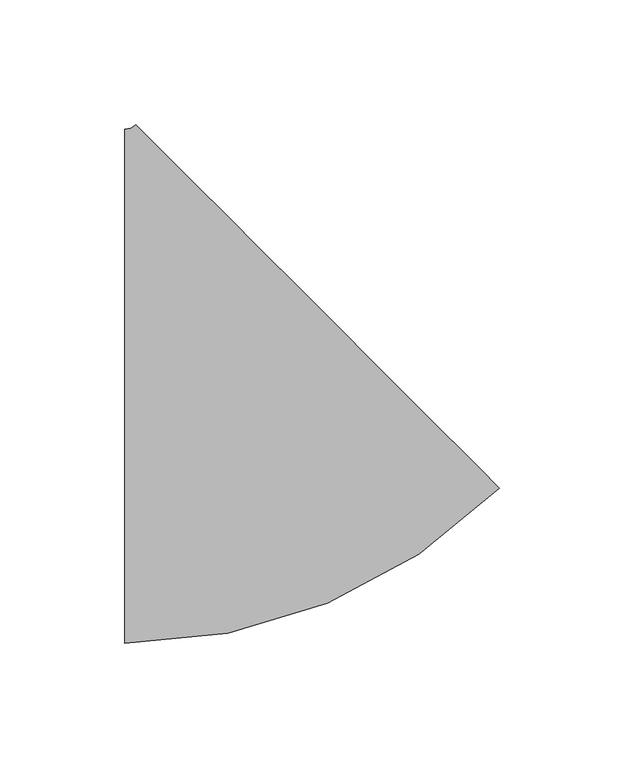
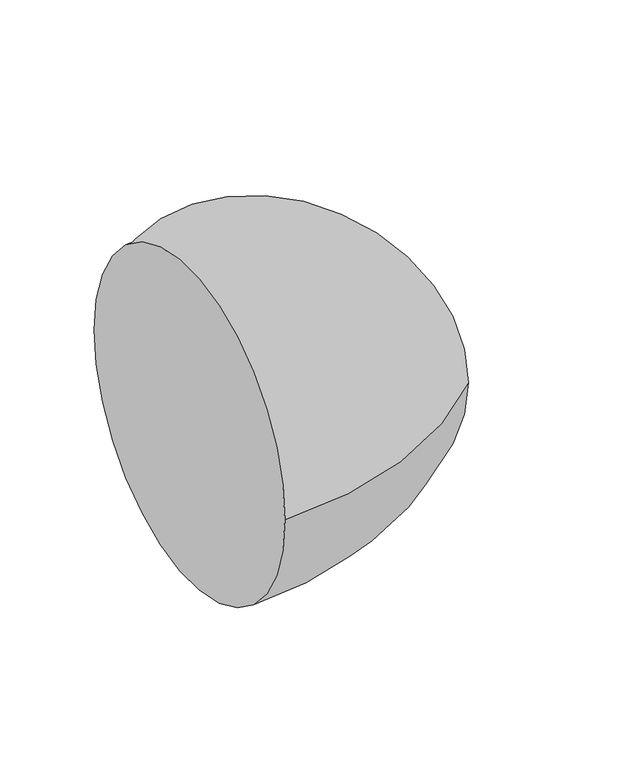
"""IFC4 building model written with IfcOpenShell, lengths in millimetres: pipe fitting geometry, M_Codo - Genérico : Estándar."""

from ifc_helpers import new_model, si_unit, point, frame, origin, place, context, project, spatial, circle_curve, ellipse_curve, trimmed, source, transform, mapped, element, save
from ifc_brep_helpers import plane_surface, revolved_surface, advanced_brep


def pipe_fitting_80f5df9b(model_context):
    return source(origin(), model_context, "Body", "AdvancedBrep", [
        advanced_brep(
        [(-45.3688854, -103.1875, 0.0), (-45.3688854, 103.1875, 0.0), (105.043295, -40.8888993, 0.0), (-40.8789696, 105.0471597, 0.0)],
        [
            (0, 1, circle_curve(frame((-45.3688854, 0.0, 0.0), z_axis=(-1.0, 0.0, 0.0), x_axis=(0.0, 1.0, 0.0)), 103.1875)),
            (1, 0, circle_curve(frame((-45.3688854, 0.0, 0.0), z_axis=(-1.0, 0.0, 0.0), x_axis=(0.0, 1.0, 0.0)), 103.1875)),
            (2, 3, circle_curve(frame((32.0821627, 32.0791302, 0.0), z_axis=(0.7071402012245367, 0.70707335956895, 0.0), x_axis=(-0.70707335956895, 0.7071402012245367, 0.0)), 103.1875)),
            (3, 2, circle_curve(frame((32.0821627, 32.0791302, 0.0), z_axis=(0.7071402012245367, 0.70707335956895, 0.0), x_axis=(-0.70707335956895, 0.7071402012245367, 0.0)), 103.1875)),
            (3, 1, circle_curve(frame((-45.3688854, 109.5375, 0.0), z_axis=(0.0, 0.0, -1.0), x_axis=(0.0, -1.0, 0.0)), 6.35)),
            (0, 2, circle_curve(frame((-45.3688854, 109.5375, 0.0), z_axis=(0.0, 0.0, 1.0), x_axis=(0.0, -1.0, 0.0)), 212.725)),
        ],
        [
            plane_surface(frame((-45.3688854, 0.0, 0.0), z_axis=(-1.0, 0.0, 0.0), x_axis=(0.0, 0.0, 1.0))),
            plane_surface(frame((32.0821627, 32.0791302, 0.0), z_axis=(0.7071402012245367, 0.70707335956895, 0.0), x_axis=(0.0, 0.0, 1.0))),
            revolved_surface(trimmed(ellipse_curve(frame((-45.3688854, 0.0, 0.0), z_axis=(-1.0, 0.0, 0.0), x_axis=(0.0, 1.0, 0.0)), 103.1875, 103.1875), [point((-45.3688854, -103.1875, 0.0))], [point((-45.3688854, 103.1875, 0.0))], True, "CARTESIAN"), (-45.3688854, 109.5375, 0.0), (0.0, 0.0, 1.0)),
            revolved_surface(trimmed(ellipse_curve(frame((-45.3688854, 0.0, 0.0), z_axis=(-1.0, 0.0, 0.0), x_axis=(0.0, 1.0, 0.0)), 103.1875, 103.1875), [point((-45.3688854, 103.1875, 0.0))], [point((-45.3688854, -103.1875, 0.0))], True, "CARTESIAN"), (-45.3688854, 109.5375, 0.0), (0.0, 0.0, 1.0)),
        ],
        [
            (0, [[1, 2]]),
            (1, [[3, 4]]),
            (2, [[5, -1, 6, -4]]),
            (3, [[-6, -2, -5, -3]]),
        ],
    ),
    ])


if __name__ == "__main__":
    model = new_model("IFC4")
    model_context = context("Model", 3, world=origin())
    ifc_project = project(units=[si_unit("LENGTHUNIT", "METRE", prefix="MILLI")], contexts=[model_context])
    site = spatial("IfcSite", under=ifc_project)
    building = spatial("IfcBuilding", under=site)
    placement = place(None, origin())
    pipe_fitting_shape = pipe_fitting_80f5df9b(model_context)
    element("IfcPipeFitting", 1, ObjectType="M_Codo - Genérico : Estándar", at=placement, inside=building, context=model_context, shape_type="MappedRepresentation", body=[
        mapped(pipe_fitting_shape, transform((0.0, 0.0, 0.0), x_axis=(1.0, 0.0, 0.0), y_axis=(0.0, 1.0, 0.0), z_axis=(0.0, 0.0, 1.0))),
    ])
    save(model, "model.ifc")
